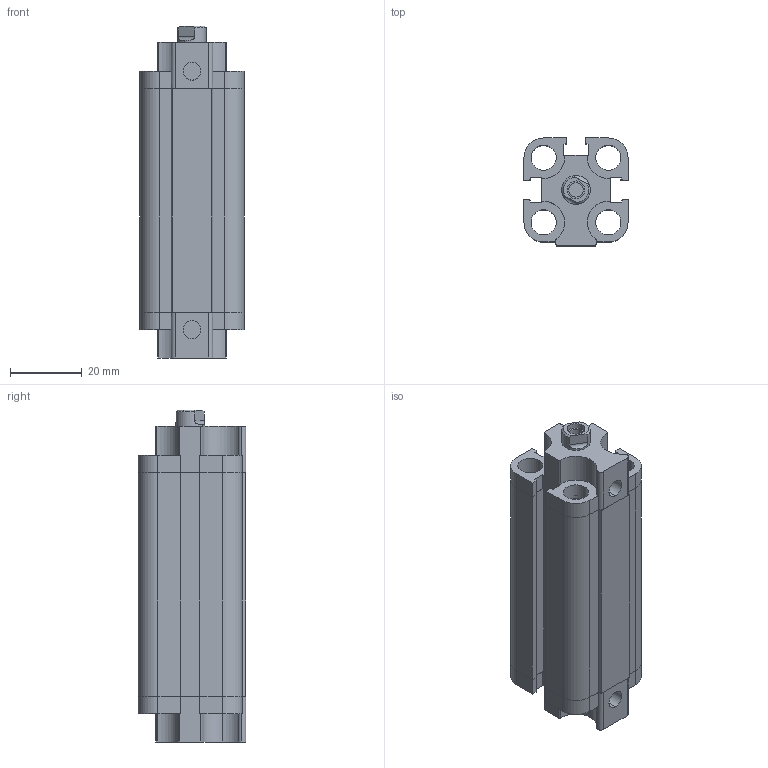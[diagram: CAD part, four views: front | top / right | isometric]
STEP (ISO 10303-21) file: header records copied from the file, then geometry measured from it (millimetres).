
FILE_DESCRIPTION (( 'STEP AP203' ), '1' );
FILE_NAME ('ADVU16X50-SCYLINDER.STEP', '2015-05-21T13:34:37', ( 'user' ), ( '' ), 'SwSTEP 2.0', 'SolidWorks 2013', '' );
FILE_SCHEMA (( 'CONFIG_CONTROL_DESIGN' ));
Length unit declared in the file: millimetre
Products named in the file (6): ADVU 16-S ARKA KAPAK; ADVU 16-S ORTA PÝSTON; ADVU 16X50-S BORU; ADVU 16-S 烰 KAPAK; ADVU 16X50-S M尳; ADVU16X50-SCYLINDER
Assembly tree (5 placements, depth 2):
  ADVU16X50-SCYLINDER
    ADVU 16-S ARKA KAPAK
    ADVU 16-S ORTA PÝSTON
    ADVU 16X50-S BORU
    ADVU 16-S 烰 KAPAK
    ADVU 16X50-S M尳
Bounding box: 29 x 30 x 92.5 mm (x, y, z)
Volume: 36066.1 mm3; surface area: 29712.6 mm2
Topology: 6 solids, 6 shells, 316 faces, 846 edges, 560 vertices
Faces by surface type: cylinder 157, plane 142, cone 15, bspline 2
Entity records: 10951 total; most frequent: CARTESIAN_POINT 2065, DIRECTION 1805, ORIENTED_EDGE 1692, EDGE_CURVE 846, AXIS2_PLACEMENT_3D 658, VERTEX_POINT 560, LINE 489, VECTOR 489
